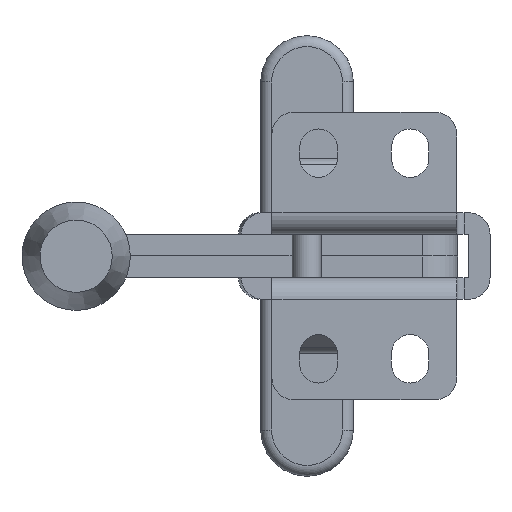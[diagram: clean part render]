
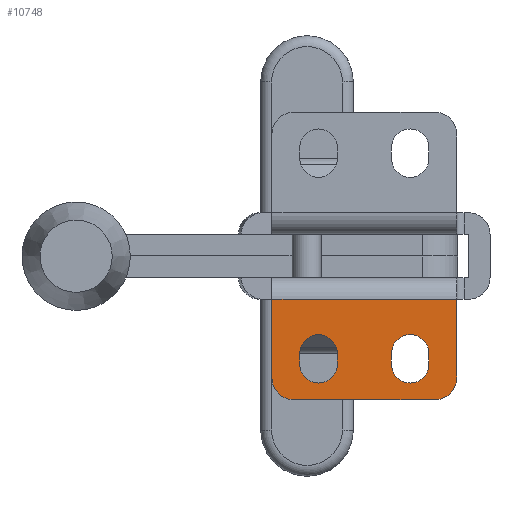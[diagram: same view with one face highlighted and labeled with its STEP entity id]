
A CAD part, front view. The second image highlights one B-rep face of the part: STEP entity #10748.
In plain terms, the highlighted planar face has unit normal (0, -1, 0).
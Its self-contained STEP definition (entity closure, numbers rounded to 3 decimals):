
#757=FACE_BOUND('',#1717,.T.);
#758=FACE_BOUND('',#1718,.T.);
#834=PLANE('',#11569);
#1115=FACE_OUTER_BOUND('',#1716,.T.);
#1716=EDGE_LOOP('',(#7414,#7415,#7416,#7417,#7418,#7419));
#1717=EDGE_LOOP('',(#7420,#7421,#7422,#7423));
#1718=EDGE_LOOP('',(#7424,#7425,#7426,#7427));
#2397=LINE('',#14787,#3334);
#2413=LINE('',#14829,#3350);
#2417=LINE('',#14837,#3354);
#2418=LINE('',#14841,#3355);
#2419=LINE('',#14844,#3356);
#2420=LINE('',#14846,#3357);
#2421=LINE('',#14849,#3358);
#2422=LINE('',#14851,#3359);
#3334=VECTOR('',#12368,1000.);
#3350=VECTOR('',#12412,1000.);
#3354=VECTOR('',#12420,1000.);
#3355=VECTOR('',#12423,1000.);
#3356=VECTOR('',#12426,1000.);
#3357=VECTOR('',#12427,1000.);
#3358=VECTOR('',#12430,1000.);
#3359=VECTOR('',#12431,1000.);
#4236=CIRCLE('',#11509,2.6);
#4238=CIRCLE('',#11512,2.6);
#4277=CIRCLE('',#11570,3.);
#4278=CIRCLE('',#11571,3.);
#4279=CIRCLE('',#11572,2.6);
#4280=CIRCLE('',#11573,2.6);
#4521=VERTEX_POINT('',#14639);
#4522=VERTEX_POINT('',#14640);
#4525=VERTEX_POINT('',#14648);
#4526=VERTEX_POINT('',#14649);
#4587=VERTEX_POINT('',#14784);
#4588=VERTEX_POINT('',#14786);
#4599=VERTEX_POINT('',#14827);
#4600=VERTEX_POINT('',#14828);
#4603=VERTEX_POINT('',#14838);
#4604=VERTEX_POINT('',#14840);
#4605=VERTEX_POINT('',#14843);
#4606=VERTEX_POINT('',#14845);
#4607=VERTEX_POINT('',#14848);
#4608=VERTEX_POINT('',#14850);
#5634=EDGE_CURVE('',#4521,#4522,#4236,.T.);
#5638=EDGE_CURVE('',#4525,#4526,#4238,.T.);
#5704=EDGE_CURVE('',#4587,#4588,#2397,.T.);
#5725=EDGE_CURVE('',#4599,#4600,#2413,.T.);
#5730=EDGE_CURVE('',#4587,#4599,#2417,.T.);
#5731=EDGE_CURVE('',#4603,#4600,#4277,.T.);
#5732=EDGE_CURVE('',#4603,#4604,#2418,.T.);
#5733=EDGE_CURVE('',#4588,#4604,#4278,.T.);
#5734=EDGE_CURVE('',#4522,#4605,#2419,.T.);
#5735=EDGE_CURVE('',#4606,#4521,#2420,.T.);
#5736=EDGE_CURVE('',#4605,#4606,#4279,.T.);
#5737=EDGE_CURVE('',#4526,#4607,#2421,.T.);
#5738=EDGE_CURVE('',#4608,#4525,#2422,.T.);
#5739=EDGE_CURVE('',#4607,#4608,#4280,.T.);
#7414=ORIENTED_EDGE('',*,*,#5704,.F.);
#7415=ORIENTED_EDGE('',*,*,#5730,.T.);
#7416=ORIENTED_EDGE('',*,*,#5725,.T.);
#7417=ORIENTED_EDGE('',*,*,#5731,.F.);
#7418=ORIENTED_EDGE('',*,*,#5732,.T.);
#7419=ORIENTED_EDGE('',*,*,#5733,.F.);
#7420=ORIENTED_EDGE('',*,*,#5734,.F.);
#7421=ORIENTED_EDGE('',*,*,#5634,.F.);
#7422=ORIENTED_EDGE('',*,*,#5735,.F.);
#7423=ORIENTED_EDGE('',*,*,#5736,.F.);
#7424=ORIENTED_EDGE('',*,*,#5737,.F.);
#7425=ORIENTED_EDGE('',*,*,#5638,.F.);
#7426=ORIENTED_EDGE('',*,*,#5738,.F.);
#7427=ORIENTED_EDGE('',*,*,#5739,.F.);
#10748=ADVANCED_FACE('',(#1115,#757,#758),#834,.F.);
#11509=AXIS2_PLACEMENT_3D('',#14641,#12243,#12244);
#11512=AXIS2_PLACEMENT_3D('',#14650,#12251,#12252);
#11569=AXIS2_PLACEMENT_3D('',#14836,#12418,#12419);
#11570=AXIS2_PLACEMENT_3D('',#14839,#12421,#12422);
#11571=AXIS2_PLACEMENT_3D('',#14842,#12424,#12425);
#11572=AXIS2_PLACEMENT_3D('',#14847,#12428,#12429);
#11573=AXIS2_PLACEMENT_3D('',#14852,#12432,#12433);
#12243=DIRECTION('center_axis',(0.,-1.,0.));
#12244=DIRECTION('ref_axis',(-1.,0.,0.));
#12251=DIRECTION('center_axis',(0.,-1.,0.));
#12252=DIRECTION('ref_axis',(-1.,0.,0.));
#12368=DIRECTION('',(0.,0.,-1.));
#12412=DIRECTION('',(0.,0.,-1.));
#12418=DIRECTION('center_axis',(0.,1.,0.));
#12419=DIRECTION('ref_axis',(-1.,0.,0.));
#12420=DIRECTION('',(-1.,0.,0.));
#12421=DIRECTION('center_axis',(0.,1.,0.));
#12422=DIRECTION('ref_axis',(-1.,0.,0.));
#12423=DIRECTION('',(1.,0.,0.));
#12424=DIRECTION('center_axis',(0.,1.,0.));
#12425=DIRECTION('ref_axis',(-1.,0.,0.));
#12426=DIRECTION('',(0.,0.,1.));
#12427=DIRECTION('',(0.,0.,-1.));
#12428=DIRECTION('center_axis',(0.,-1.,0.));
#12429=DIRECTION('ref_axis',(-1.,0.,0.));
#12430=DIRECTION('',(0.,0.,1.));
#12431=DIRECTION('',(0.,0.,-1.));
#12432=DIRECTION('center_axis',(0.,-1.,0.));
#12433=DIRECTION('ref_axis',(-1.,0.,0.));
#14639=CARTESIAN_POINT('',(-21.75,0.,-9.));
#14640=CARTESIAN_POINT('',(-16.55,0.,-9.));
#14641=CARTESIAN_POINT('Origin',(-19.15,0.,-9.));
#14648=CARTESIAN_POINT('',(-9.05,0.,-9.));
#14649=CARTESIAN_POINT('',(-3.85,0.,-9.));
#14650=CARTESIAN_POINT('Origin',(-6.45,0.,-9.));
#14784=CARTESIAN_POINT('',(0.,0.,0.));
#14786=CARTESIAN_POINT('',(0.,0.,-10.9));
#14787=CARTESIAN_POINT('',(0.,0.,12.));
#14827=CARTESIAN_POINT('',(-25.6,0.,0.));
#14828=CARTESIAN_POINT('',(-25.6,0.,-10.9));
#14829=CARTESIAN_POINT('',(-25.6,0.,12.));
#14836=CARTESIAN_POINT('Origin',(0.,0.,12.));
#14837=CARTESIAN_POINT('',(0.,0.,0.));
#14838=CARTESIAN_POINT('',(-22.6,0.,-13.9));
#14839=CARTESIAN_POINT('Origin',(-22.6,0.,-10.9));
#14840=CARTESIAN_POINT('',(-3.,0.,-13.9));
#14841=CARTESIAN_POINT('',(0.,0.,-13.9));
#14842=CARTESIAN_POINT('Origin',(-3.,0.,-10.9));
#14843=CARTESIAN_POINT('',(-16.55,0.,-7.5));
#14844=CARTESIAN_POINT('',(-16.55,0.,0.));
#14845=CARTESIAN_POINT('',(-21.75,0.,-7.5));
#14846=CARTESIAN_POINT('',(-21.75,0.,0.));
#14847=CARTESIAN_POINT('Origin',(-19.15,0.,-7.5));
#14848=CARTESIAN_POINT('',(-3.85,0.,-7.5));
#14849=CARTESIAN_POINT('',(-3.85,0.,0.));
#14850=CARTESIAN_POINT('',(-9.05,0.,-7.5));
#14851=CARTESIAN_POINT('',(-9.05,0.,0.));
#14852=CARTESIAN_POINT('Origin',(-6.45,0.,-7.5));
